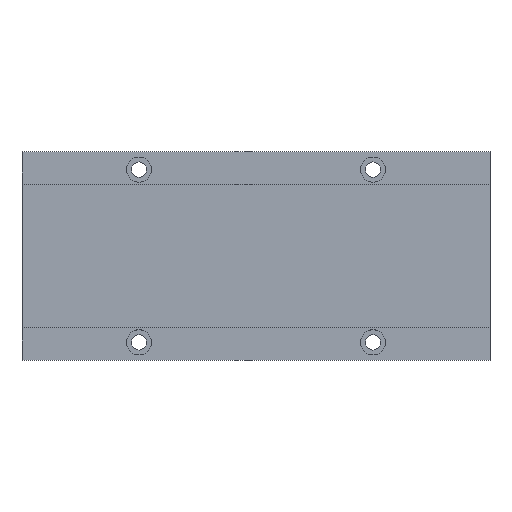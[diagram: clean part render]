
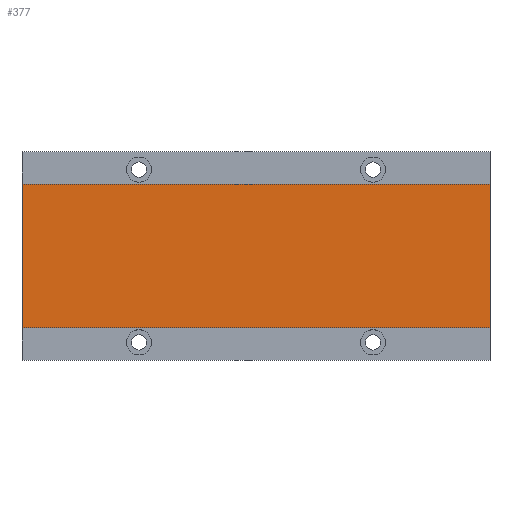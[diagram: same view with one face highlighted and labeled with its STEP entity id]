
A CAD part, top view. The second image highlights one B-rep face of the part: STEP entity #377.
In plain terms, the highlighted planar face has unit normal (0, 0, 1).
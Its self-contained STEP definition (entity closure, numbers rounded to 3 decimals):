
#97 = VECTOR ( 'NONE', #325, 1000. ) ;
#113 = VECTOR ( 'NONE', #188, 1000. ) ;
#147 = VECTOR ( 'NONE', #867, 1000. ) ;
#188 = DIRECTION ( 'NONE',  ( 0., -1., 0. ) ) ;
#190 = VERTEX_POINT ( 'NONE', #590 ) ;
#257 = FACE_OUTER_BOUND ( 'NONE', #719, .T. ) ;
#266 = VECTOR ( 'NONE', #712, 1000. ) ;
#269 = LINE ( 'NONE', #754, #97 ) ;
#273 = AXIS2_PLACEMENT_3D ( 'NONE', #324, #279, #646 ) ;
#279 = DIRECTION ( 'NONE',  ( 0., 0., 1. ) ) ;
#285 = EDGE_CURVE ( 'NONE', #430, #570, #720, .T. ) ;
#324 = CARTESIAN_POINT ( 'NONE',  ( 0., 0., 10.5 ) ) ;
#325 = DIRECTION ( 'NONE',  ( 1., 0., 0. ) ) ;
#348 = CARTESIAN_POINT ( 'NONE',  ( -126., 25.75, 10.5 ) ) ;
#356 = ORIENTED_EDGE ( 'NONE', *, *, #502, .T. ) ;
#365 = CARTESIAN_POINT ( 'NONE',  ( -126., 25.75, 10.5 ) ) ;
#367 = LINE ( 'NONE', #365, #147 ) ;
#377 = ADVANCED_FACE ( 'NONE', ( #257 ), #478, .T. ) ;
#430 = VERTEX_POINT ( 'NONE', #770 ) ;
#438 = CARTESIAN_POINT ( 'NONE',  ( 42., -25.75, 10.5 ) ) ;
#478 = PLANE ( 'NONE',  #273 ) ;
#502 = EDGE_CURVE ( 'NONE', #190, #833, #915, .T. ) ;
#562 = EDGE_CURVE ( 'NONE', #430, #190, #367, .T. ) ;
#570 = VERTEX_POINT ( 'NONE', #438 ) ;
#590 = CARTESIAN_POINT ( 'NONE',  ( -126., 25.75, 10.5 ) ) ;
#646 = DIRECTION ( 'NONE',  ( 1., 0., 0. ) ) ;
#686 = CARTESIAN_POINT ( 'NONE',  ( -126., -25.75, 10.5 ) ) ;
#712 = DIRECTION ( 'NONE',  ( 0., -1., 0. ) ) ;
#713 = ORIENTED_EDGE ( 'NONE', *, *, #929, .T. ) ;
#719 = EDGE_LOOP ( 'NONE', ( #762, #856, #356, #713 ) ) ;
#720 = LINE ( 'NONE', #909, #113 ) ;
#754 = CARTESIAN_POINT ( 'NONE',  ( -126., -25.75, 10.5 ) ) ;
#762 = ORIENTED_EDGE ( 'NONE', *, *, #285, .F. ) ;
#770 = CARTESIAN_POINT ( 'NONE',  ( 42., 25.75, 10.5 ) ) ;
#833 = VERTEX_POINT ( 'NONE', #686 ) ;
#856 = ORIENTED_EDGE ( 'NONE', *, *, #562, .T. ) ;
#867 = DIRECTION ( 'NONE',  ( -1., 0., 0. ) ) ;
#909 = CARTESIAN_POINT ( 'NONE',  ( 42., 0., 10.5 ) ) ;
#915 = LINE ( 'NONE', #348, #266 ) ;
#929 = EDGE_CURVE ( 'NONE', #833, #570, #269, .T. ) ;
